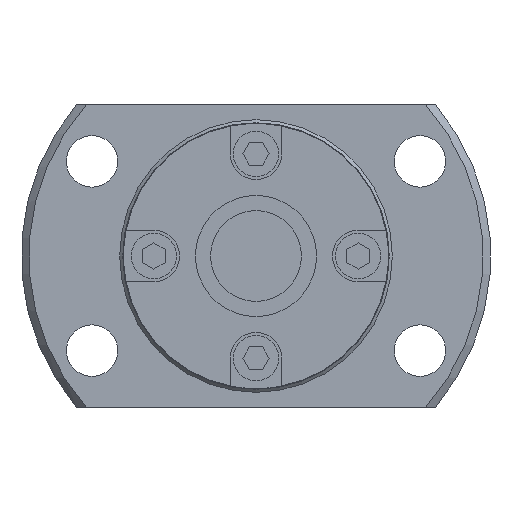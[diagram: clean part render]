
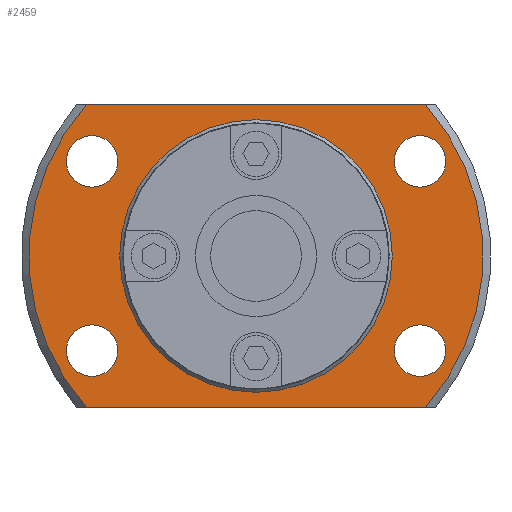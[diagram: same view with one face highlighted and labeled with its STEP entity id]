
A CAD part, left-side view. The second image highlights one B-rep face of the part: STEP entity #2459.
In plain terms, the highlighted planar face has unit normal (-1, 0, 0).
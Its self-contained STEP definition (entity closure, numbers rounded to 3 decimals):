
#135=LINE('',#3857,#361);
#136=LINE('',#3861,#362);
#361=VECTOR('',#3099,1000.);
#362=VECTOR('',#3102,1000.);
#683=ORIENTED_EDGE('',*,*,#1305,.F.);
#684=ORIENTED_EDGE('',*,*,#1306,.F.);
#685=ORIENTED_EDGE('',*,*,#1307,.F.);
#686=ORIENTED_EDGE('',*,*,#1308,.F.);
#687=ORIENTED_EDGE('',*,*,#1291,.F.);
#688=ORIENTED_EDGE('',*,*,#1309,.T.);
#689=ORIENTED_EDGE('',*,*,#1310,.F.);
#690=ORIENTED_EDGE('',*,*,#1311,.T.);
#691=ORIENTED_EDGE('',*,*,#1304,.T.);
#1291=EDGE_CURVE('',#1613,#1614,#1810,.T.);
#1304=EDGE_CURVE('',#1625,#1625,#1818,.T.);
#1305=EDGE_CURVE('',#1626,#1626,#1819,.F.);
#1306=EDGE_CURVE('',#1627,#1627,#1820,.F.);
#1307=EDGE_CURVE('',#1628,#1628,#1821,.F.);
#1308=EDGE_CURVE('',#1629,#1629,#1822,.F.);
#1309=EDGE_CURVE('',#1613,#1630,#135,.T.);
#1310=EDGE_CURVE('',#1631,#1630,#1823,.T.);
#1311=EDGE_CURVE('',#1631,#1614,#136,.T.);
#1613=VERTEX_POINT('',#3805);
#1614=VERTEX_POINT('',#3807);
#1625=VERTEX_POINT('',#3847);
#1626=VERTEX_POINT('',#3850);
#1627=VERTEX_POINT('',#3852);
#1628=VERTEX_POINT('',#3854);
#1629=VERTEX_POINT('',#3856);
#1630=VERTEX_POINT('',#3858);
#1631=VERTEX_POINT('',#3860);
#1810=CIRCLE('',#2675,15.);
#1818=CIRCLE('',#2690,8.85);
#1819=CIRCLE('',#2692,1.7);
#1820=CIRCLE('',#2693,1.7);
#1821=CIRCLE('',#2694,1.7);
#1822=CIRCLE('',#2695,1.7);
#1823=CIRCLE('',#2696,15.);
#1932=EDGE_LOOP('',(#683));
#1933=EDGE_LOOP('',(#684));
#1934=EDGE_LOOP('',(#685));
#1935=EDGE_LOOP('',(#686));
#1936=EDGE_LOOP('',(#687,#688,#689,#690));
#1937=EDGE_LOOP('',(#691));
#2154=FACE_BOUND('',#1932,.T.);
#2155=FACE_BOUND('',#1933,.T.);
#2156=FACE_BOUND('',#1934,.T.);
#2157=FACE_BOUND('',#1935,.T.);
#2158=FACE_BOUND('',#1936,.T.);
#2159=FACE_BOUND('',#1937,.T.);
#2331=PLANE('',#2691);
#2459=ADVANCED_FACE('',(#2154,#2155,#2156,#2157,#2158,#2159),#2331,.F.);
#2675=AXIS2_PLACEMENT_3D('',#3806,#3055,#3056);
#2690=AXIS2_PLACEMENT_3D('',#3846,#3087,#3088);
#2691=AXIS2_PLACEMENT_3D('',#3848,#3089,#3090);
#2692=AXIS2_PLACEMENT_3D('',#3849,#3091,#3092);
#2693=AXIS2_PLACEMENT_3D('',#3851,#3093,#3094);
#2694=AXIS2_PLACEMENT_3D('',#3853,#3095,#3096);
#2695=AXIS2_PLACEMENT_3D('',#3855,#3097,#3098);
#2696=AXIS2_PLACEMENT_3D('',#3859,#3100,#3101);
#3055=DIRECTION('',(1.,0.,0.));
#3056=DIRECTION('',(0.,0.,-1.));
#3087=DIRECTION('',(1.,0.,0.));
#3088=DIRECTION('',(0.,0.,-1.));
#3089=DIRECTION('',(1.,0.,0.));
#3090=DIRECTION('',(0.,0.,-1.));
#3091=DIRECTION('',(1.,0.,0.));
#3092=DIRECTION('',(0.,0.,-1.));
#3093=DIRECTION('',(1.,0.,0.));
#3094=DIRECTION('',(0.,0.,-1.));
#3095=DIRECTION('',(1.,0.,0.));
#3096=DIRECTION('',(0.,0.,-1.));
#3097=DIRECTION('',(1.,0.,0.));
#3098=DIRECTION('',(0.,0.,-1.));
#3099=DIRECTION('',(0.,-1.,0.));
#3100=DIRECTION('',(1.,0.,0.));
#3101=DIRECTION('',(0.,0.,-1.));
#3102=DIRECTION('',(0.,1.,0.));
#3805=CARTESIAN_POINT('',(10.,11.18,-10.));
#3806=CARTESIAN_POINT('',(10.,0.,0.));
#3807=CARTESIAN_POINT('',(10.,11.18,10.));
#3846=CARTESIAN_POINT('',(10.,0.,0.));
#3847=CARTESIAN_POINT('',(10.,0.,-8.85));
#3848=CARTESIAN_POINT('',(10.,8.85,0.));
#3849=CARTESIAN_POINT('',(10.,-10.825,-6.25));
#3850=CARTESIAN_POINT('',(10.,-10.825,-7.95));
#3851=CARTESIAN_POINT('',(10.,-10.825,6.25));
#3852=CARTESIAN_POINT('',(10.,-10.825,4.55));
#3853=CARTESIAN_POINT('',(10.,10.825,-6.25));
#3854=CARTESIAN_POINT('',(10.,10.825,-7.95));
#3855=CARTESIAN_POINT('',(10.,10.825,6.25));
#3856=CARTESIAN_POINT('',(10.,10.825,4.55));
#3857=CARTESIAN_POINT('',(10.,8.85,-10.));
#3858=CARTESIAN_POINT('',(10.,-11.18,-10.));
#3859=CARTESIAN_POINT('',(10.,0.,0.));
#3860=CARTESIAN_POINT('',(10.,-11.18,10.));
#3861=CARTESIAN_POINT('',(10.,8.85,10.));
